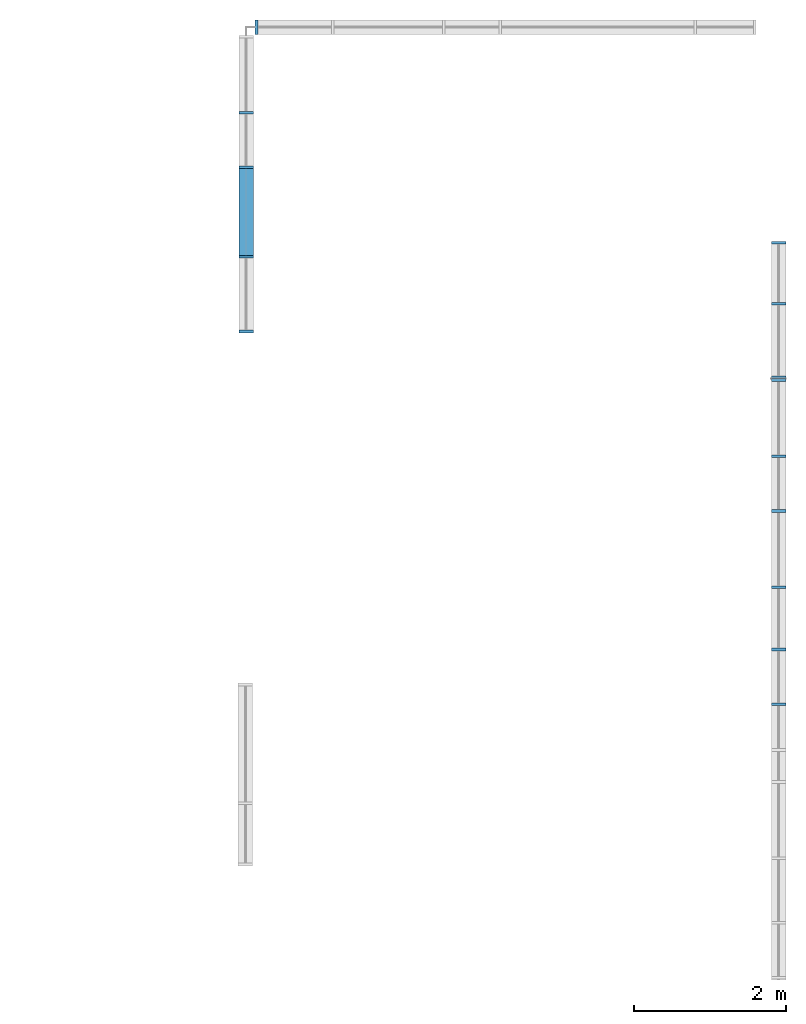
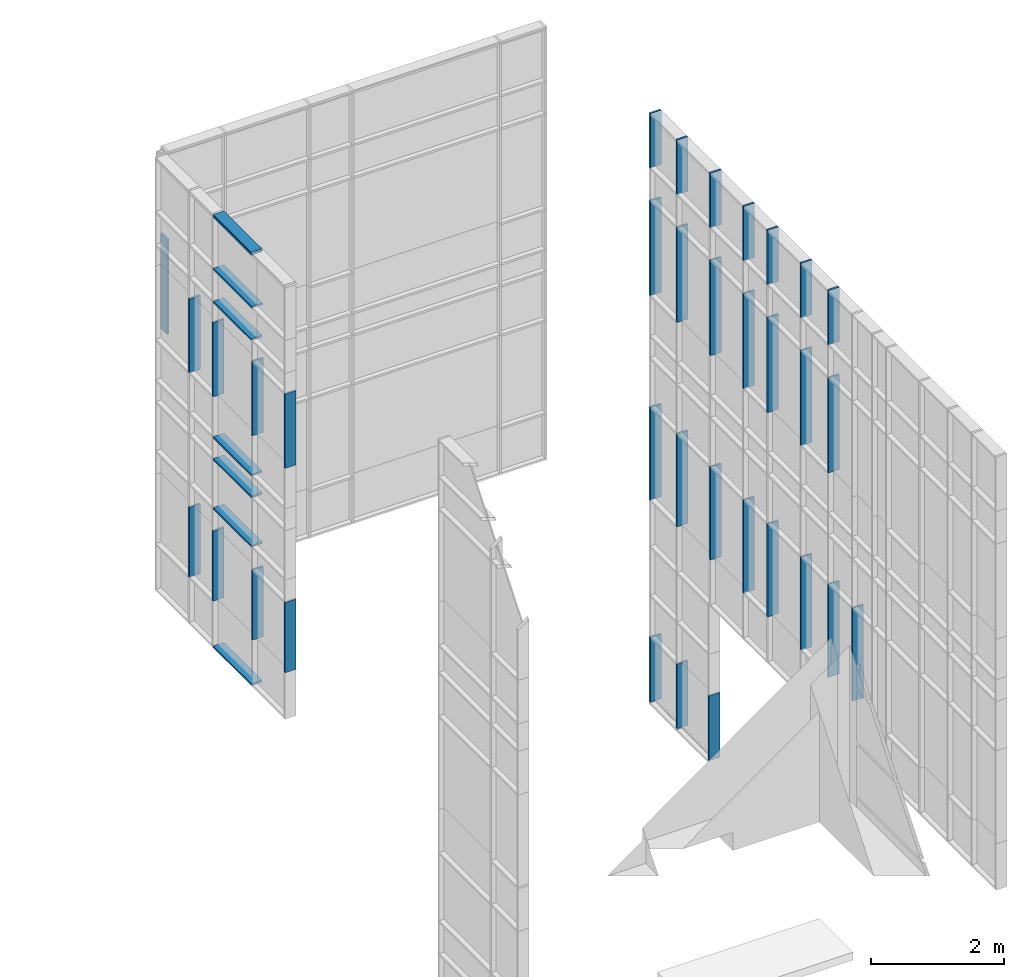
# One storey, part 6 of 73: 42 members, 3 elements without a shape of their own.
"""IFC2X3 building model written with IfcOpenShell, lengths in millimetres."""

from ifc_helpers import new_model, entity, si_unit, converted_unit, derived_unit, direction, frame, frame_2d, origin, origin_2d_with_axis, place, context, subcontext, project, spatial, rectangle, extrude, source, transform, mapped, material, type_object, type_shapes, element, aggregate, save


model = new_model("IFC2X3")

# Units and contexts
model_context = context("Model", 3, precision=0.01, world=origin(), true_north=direction((6.12303176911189e-17, 1.0)))
body_context = subcontext(model_context, "Body", "Model", "MODEL_VIEW")
ifc_project = project(units=[si_unit("LENGTHUNIT", "METRE", prefix="MILLI"), si_unit("AREAUNIT", "SQUARE_METRE"), si_unit("VOLUMEUNIT", "CUBIC_METRE"), converted_unit("PLANEANGLEUNIT", "DEGREE", entity("IfcRatioMeasure", 0.0174532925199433), si_unit("PLANEANGLEUNIT", "RADIAN"), dimensions=[0, 0, 0, 0, 0, 0, 0]), si_unit("MASSUNIT", "GRAM", prefix="KILO"), derived_unit("MASSDENSITYUNIT", [(si_unit("MASSUNIT", "GRAM", prefix="KILO"), 1), (si_unit("LENGTHUNIT", "METRE"), -3)]), si_unit("TIMEUNIT", "SECOND"), si_unit("FREQUENCYUNIT", "HERTZ"), si_unit("THERMODYNAMICTEMPERATUREUNIT", "DEGREE_CELSIUS"), derived_unit("THERMALTRANSMITTANCEUNIT", [(si_unit("MASSUNIT", "GRAM", prefix="KILO"), 1), (si_unit("THERMODYNAMICTEMPERATUREUNIT", "KELVIN"), -1), (si_unit("TIMEUNIT", "SECOND"), -3)]), derived_unit("VOLUMETRICFLOWRATEUNIT", [(si_unit("LENGTHUNIT", "METRE"), 3), (si_unit("TIMEUNIT", "SECOND"), -1)]), si_unit("ELECTRICCURRENTUNIT", "AMPERE"), si_unit("ELECTRICVOLTAGEUNIT", "VOLT"), si_unit("POWERUNIT", "WATT"), si_unit("FORCEUNIT", "NEWTON", prefix="KILO"), si_unit("ILLUMINANCEUNIT", "LUX"), si_unit("LUMINOUSFLUXUNIT", "LUMEN"), si_unit("LUMINOUSINTENSITYUNIT", "CANDELA"), derived_unit("USERDEFINED", [(si_unit("MASSUNIT", "GRAM", prefix="KILO"), -1), (si_unit("LENGTHUNIT", "METRE"), -2), (si_unit("TIMEUNIT", "SECOND"), 3), (si_unit("LUMINOUSFLUXUNIT", "LUMEN"), 1)]), derived_unit("LINEARVELOCITYUNIT", [(si_unit("LENGTHUNIT", "METRE"), 1), (si_unit("TIMEUNIT", "SECOND"), -1)]), si_unit("PRESSUREUNIT", "PASCAL"), derived_unit("USERDEFINED", [(si_unit("LENGTHUNIT", "METRE"), -2), (si_unit("MASSUNIT", "GRAM", prefix="KILO"), 1), (si_unit("TIMEUNIT", "SECOND"), -2)])], contexts=[model_context])

# Site, building, storey
site_placement = place(None, frame((-151.875543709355, 2715.0, 0.0)))
site = spatial("IfcSite", under=ifc_project, at=site_placement, Name="Surface", CompositionType="ELEMENT")
building_placement = place(site_placement, origin())
building = spatial("IfcBuilding", under=site, at=building_placement, CompositionType="ELEMENT")
storey_placement = place(building_placement, frame((0.0, 0.0, 6730.43000000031)))
storey = spatial("IfcBuildingStorey", under=building, at=storey_placement, Name="3 korrus", CompositionType="ELEMENT", Elevation=6730.43000000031)

# Curtain wall, members
curtain_wall_type_1 = type_object("IfcCurtainWallType", Name="Curtain Wall:Klaasfassaad", PredefinedType="NOTDEFINED")
curtain_wall_1_placement = place(storey_placement, frame((0.0, 0.0, -6730.43000000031)))
curtain_wall_1 = element("IfcCurtainWall", 1, at=curtain_wall_1_placement, inside=storey, type_object=curtain_wall_type_1, Name="Curtain Wall:Klaasfassaad", ObjectType="Curtain Wall:Klaasfassaad")
ifc_material = material(Name="Steel/Aluminium")
member_type_1 = type_object("IfcMemberType", Name="35 x 190mm", PredefinedType="MEMBER")
shared_shape_1 = source(origin(), body_context, "Body", "SweptSolid", [
    extrude(rectangle(XDim=190.0, YDim=35.0, at=origin_2d_with_axis()), frame((-17.5, 0.0, -1000.0), z_axis=(0.0, 0.0, 1.0), x_axis=(0.0, -1.0, 0.0)), (0.0, 0.0, 1.0), 1000.0),
])
type_shapes(member_type_1, [shared_shape_1])
member_1_placement = place(storey_placement, frame((38701.6162681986, 23810.5004565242, 4074.47692901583), z_axis=(0.0, 0.0, -1.0), x_axis=(0.0, 1.0, 0.0)))
member_1 = element("IfcMember", 2, at=member_1_placement, type_object=member_type_1, material=ifc_material, Name="Rectangular Mullion:35 x 190mm", ObjectType="35 x 190mm", context=body_context, shape_type="MappedRepresentation", body=[
    mapped(shared_shape_1, transform((0.0, 0.0, 0.0), scale=1.0)),
])
member_type_2 = type_object("IfcMemberType", Name="35 x 190mm", PredefinedType="MEMBER")
shared_shape_2 = source(origin(), body_context, "Body", "SweptSolid", [
    extrude(rectangle(XDim=190.0, YDim=35.0, at=origin_2d_with_axis()), frame((0.0, 0.0, -1000.0), z_axis=(0.0, 0.0, 1.0), x_axis=(0.0, -1.0, 0.0)), (0.0, 0.0, 1.0), 1000.0),
])
type_shapes(member_type_2, [shared_shape_2])
member_2_placement = place(storey_placement, frame((38701.6162681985, 18450.5004565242, 4074.47692901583), z_axis=(0.0, 0.0, -1.0), x_axis=(0.0, 1.0, 0.0)))
member_2 = element("IfcMember", 3, at=member_2_placement, type_object=member_type_2, material=ifc_material, Name="Rectangular Mullion:35 x 190mm", ObjectType="35 x 190mm", context=body_context, shape_type="MappedRepresentation", body=[
    mapped(shared_shape_2, transform((0.0, 0.0, 0.0), scale=1.0)),
])
member_3_placement = place(storey_placement, frame((38701.6162681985, 19270.5004565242, 4074.47692901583), z_axis=(0.0, 0.0, -1.0), x_axis=(0.0, 1.0, 0.0)))
member_3 = element("IfcMember", 4, at=member_3_placement, type_object=member_type_2, material=ifc_material, Name="Rectangular Mullion:35 x 190mm", ObjectType="35 x 190mm", context=body_context, shape_type="MappedRepresentation", body=[
    mapped(shared_shape_2, transform((0.0, 0.0, 0.0), scale=1.0)),
])
member_4_placement = place(storey_placement, frame((38701.6162681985, 20270.5004565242, 4074.47692901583), z_axis=(0.0, 0.0, -1.0), x_axis=(0.0, 1.0, 0.0)))
member_4 = element("IfcMember", 5, at=member_4_placement, type_object=member_type_2, material=ifc_material, Name="Rectangular Mullion:35 x 190mm", ObjectType="35 x 190mm", context=body_context, shape_type="MappedRepresentation", body=[
    mapped(shared_shape_2, transform((0.0, 0.0, 0.0), scale=1.0)),
])
member_5_placement = place(storey_placement, frame((38701.6162681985, 20990.5004565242, 4074.47692901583), z_axis=(0.0, 0.0, -1.0), x_axis=(0.0, 1.0, 0.0)))
member_5 = element("IfcMember", 6, at=member_5_placement, type_object=member_type_2, material=ifc_material, Name="Rectangular Mullion:35 x 190mm", ObjectType="35 x 190mm", context=body_context, shape_type="MappedRepresentation", body=[
    mapped(shared_shape_2, transform((0.0, 0.0, 0.0), scale=1.0)),
])
member_6_placement = place(storey_placement, frame((38701.6162681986, 21990.5004565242, 4074.47692901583), z_axis=(0.0, 0.0, -1.0), x_axis=(0.0, 1.0, 0.0)))
member_6 = element("IfcMember", 7, at=member_6_placement, type_object=member_type_2, material=ifc_material, Name="Rectangular Mullion:35 x 190mm", ObjectType="35 x 190mm", context=body_context, shape_type="MappedRepresentation", body=[
    mapped(shared_shape_2, transform((0.0, 0.0, 0.0), scale=1.0)),
])
member_7_placement = place(storey_placement, frame((38701.6162681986, 22990.5004565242, 4074.47692901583), z_axis=(0.0, 0.0, -1.0), x_axis=(0.0, 1.0, 0.0)))
member_7 = element("IfcMember", 8, at=member_7_placement, type_object=member_type_2, material=ifc_material, Name="Rectangular Mullion:35 x 190mm", ObjectType="35 x 190mm", context=body_context, shape_type="MappedRepresentation", body=[
    mapped(shared_shape_2, transform((0.0, 0.0, 0.0), scale=1.0)),
])
member_type_3 = type_object("IfcMemberType", Name="35 x 190mm", PredefinedType="MEMBER")
shared_shape_3 = source(origin(), body_context, "Body", "SweptSolid", [
    extrude(rectangle(XDim=190.0, YDim=35.0, at=origin_2d_with_axis()), frame((-17.5, 0.0, -1740.0), z_axis=(0.0, 0.0, 1.0), x_axis=(0.0, -1.0, 0.0)), (0.0, 0.0, 1.0), 1740.0),
])
type_shapes(member_type_3, [shared_shape_3])
member_8_placement = place(storey_placement, frame((38701.6162681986, 23810.5004565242, 1734.47692901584), z_axis=(0.0, 0.0, -1.0), x_axis=(0.0, 1.0, 0.0)))
member_8 = element("IfcMember", 9, at=member_8_placement, type_object=member_type_3, material=ifc_material, Name="Rectangular Mullion:35 x 190mm", ObjectType="35 x 190mm", context=body_context, shape_type="MappedRepresentation", body=[
    mapped(shared_shape_3, transform((0.0, 0.0, 0.0), scale=1.0)),
])
member_type_4 = type_object("IfcMemberType", Name="35 x 190mm", PredefinedType="MEMBER")
shared_shape_4 = source(origin(), body_context, "Body", "SweptSolid", [
    extrude(rectangle(XDim=190.0, YDim=35.0, at=origin_2d_with_axis()), frame((0.0, 0.0, -1740.0), z_axis=(0.0, 0.0, 1.0), x_axis=(0.0, -1.0, 0.0)), (0.0, 0.0, 1.0), 1740.0),
])
type_shapes(member_type_4, [shared_shape_4])
member_9_placement = place(storey_placement, frame((38701.6162681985, 18450.5004565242, 1734.47692901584), z_axis=(0.0, 0.0, -1.0), x_axis=(0.0, 1.0, 0.0)))
member_9 = element("IfcMember", 10, at=member_9_placement, type_object=member_type_4, material=ifc_material, Name="Rectangular Mullion:35 x 190mm", ObjectType="35 x 190mm", context=body_context, shape_type="MappedRepresentation", body=[
    mapped(shared_shape_4, transform((0.0, 0.0, 0.0), scale=1.0)),
])
member_10_placement = place(storey_placement, frame((38701.6162681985, 19270.5004565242, 1734.47692901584), z_axis=(0.0, 0.0, -1.0), x_axis=(0.0, 1.0, 0.0)))
member_10 = element("IfcMember", 11, at=member_10_placement, type_object=member_type_4, material=ifc_material, Name="Rectangular Mullion:35 x 190mm", ObjectType="35 x 190mm", context=body_context, shape_type="MappedRepresentation", body=[
    mapped(shared_shape_4, transform((0.0, 0.0, 0.0), scale=1.0)),
])
member_11_placement = place(storey_placement, frame((38701.6162681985, 20270.5004565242, 1734.47692901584), z_axis=(0.0, 0.0, -1.0), x_axis=(0.0, 1.0, 0.0)))
member_11 = element("IfcMember", 12, at=member_11_placement, type_object=member_type_4, material=ifc_material, Name="Rectangular Mullion:35 x 190mm", ObjectType="35 x 190mm", context=body_context, shape_type="MappedRepresentation", body=[
    mapped(shared_shape_4, transform((0.0, 0.0, 0.0), scale=1.0)),
])
member_12_placement = place(storey_placement, frame((38701.6162681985, 20990.5004565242, 1734.47692901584), z_axis=(0.0, 0.0, -1.0), x_axis=(0.0, 1.0, 0.0)))
member_12 = element("IfcMember", 13, at=member_12_placement, type_object=member_type_4, material=ifc_material, Name="Rectangular Mullion:35 x 190mm", ObjectType="35 x 190mm", context=body_context, shape_type="MappedRepresentation", body=[
    mapped(shared_shape_4, transform((0.0, 0.0, 0.0), scale=1.0)),
])
member_13_placement = place(storey_placement, frame((38701.6162681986, 22990.5004565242, 1734.47692901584), z_axis=(0.0, 0.0, -1.0), x_axis=(0.0, 1.0, 0.0)))
member_13 = element("IfcMember", 14, at=member_13_placement, type_object=member_type_4, material=ifc_material, Name="Rectangular Mullion:35 x 190mm", ObjectType="35 x 190mm", context=body_context, shape_type="MappedRepresentation", body=[
    mapped(shared_shape_4, transform((0.0, 0.0, 0.0), scale=1.0)),
])
member_type_5 = type_object("IfcMemberType", Name="35 x 190mm", PredefinedType="MEMBER")
shared_shape_5 = source(origin(), body_context, "Body", "SweptSolid", [
    extrude(rectangle(XDim=190.0, YDim=35.0, at=origin_2d_with_axis()), frame((0.0, 0.0, -1740.0), z_axis=(0.0, 0.0, 1.0), x_axis=(0.0, -1.0, 0.0)), (0.0, 0.0, 1.0), 1740.0),
])
type_shapes(member_type_5, [shared_shape_5])
member_14_placement = place(storey_placement, frame((38701.6162681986, 21990.5004565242, 1734.47692901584), z_axis=(0.0, 0.0, -1.0), x_axis=(0.0, 1.0, 0.0)))
member_14 = element("IfcMember", 15, at=member_14_placement, type_object=member_type_5, material=ifc_material, Name="Rectangular Mullion:35 x 190mm", ObjectType="35 x 190mm", context=body_context, shape_type="MappedRepresentation", body=[
    mapped(shared_shape_5, transform((0.0, 0.0, 0.0), scale=1.0)),
])
member_type_6 = type_object("IfcMemberType", Name="35 x 190mm", PredefinedType="MEMBER")
shared_shape_6 = source(origin(), body_context, "Body", "SweptSolid", [
    extrude(rectangle(XDim=190.0, YDim=35.0, at=origin_2d_with_axis()), frame((-17.5, 0.0, -1700.31945955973), z_axis=(0.0, 0.0, 1.0), x_axis=(0.0, -1.0, 0.0)), (0.0, 0.0, 1.0), 1700.31945955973),
])
type_shapes(member_type_6, [shared_shape_6])
member_15_placement = place(storey_placement, frame((38701.6162681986, 23810.5004565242, -2005.8425305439), z_axis=(0.0, 0.0, -1.0), x_axis=(0.0, 1.0, 0.0)))
member_15 = element("IfcMember", 16, at=member_15_placement, type_object=member_type_6, material=ifc_material, Name="Rectangular Mullion:35 x 190mm", ObjectType="35 x 190mm", context=body_context, shape_type="MappedRepresentation", body=[
    mapped(shared_shape_6, transform((0.0, 0.0, 0.0), scale=1.0)),
])
member_type_7 = type_object("IfcMemberType", Name="35 x 190mm", PredefinedType="MEMBER")
shared_shape_7 = source(origin(), body_context, "Body", "SweptSolid", [
    extrude(rectangle(XDim=190.0, YDim=35.0, at=origin_2d_with_axis()), frame((0.0, 0.0, -1700.31945955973), z_axis=(0.0, 0.0, 1.0), x_axis=(0.0, -1.0, 0.0)), (0.0, 0.0, 1.0), 1700.31945955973),
])
type_shapes(member_type_7, [shared_shape_7])
member_16_placement = place(storey_placement, frame((38701.6162681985, 18450.5004565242, -2005.8425305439), z_axis=(0.0, 0.0, -1.0), x_axis=(0.0, 1.0, 0.0)))
member_16 = element("IfcMember", 17, at=member_16_placement, type_object=member_type_7, material=ifc_material, Name="Rectangular Mullion:35 x 190mm", ObjectType="35 x 190mm", context=body_context, shape_type="MappedRepresentation", body=[
    mapped(shared_shape_7, transform((0.0, 0.0, 0.0), scale=1.0)),
])
member_17_placement = place(storey_placement, frame((38701.6162681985, 19270.5004565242, -2005.8425305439), z_axis=(0.0, 0.0, -1.0), x_axis=(0.0, 1.0, 0.0)))
member_17 = element("IfcMember", 18, at=member_17_placement, type_object=member_type_7, material=ifc_material, Name="Rectangular Mullion:35 x 190mm", ObjectType="35 x 190mm", context=body_context, shape_type="MappedRepresentation", body=[
    mapped(shared_shape_7, transform((0.0, 0.0, 0.0), scale=1.0)),
])
member_18_placement = place(storey_placement, frame((38701.6162681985, 20270.5004565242, -2005.8425305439), z_axis=(0.0, 0.0, -1.0), x_axis=(0.0, 1.0, 0.0)))
member_18 = element("IfcMember", 19, at=member_18_placement, type_object=member_type_7, material=ifc_material, Name="Rectangular Mullion:35 x 190mm", ObjectType="35 x 190mm", context=body_context, shape_type="MappedRepresentation", body=[
    mapped(shared_shape_7, transform((0.0, 0.0, 0.0), scale=1.0)),
])
member_19_placement = place(storey_placement, frame((38701.6162681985, 20990.5004565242, -2005.8425305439), z_axis=(0.0, 0.0, -1.0), x_axis=(0.0, 1.0, 0.0)))
member_19 = element("IfcMember", 20, at=member_19_placement, type_object=member_type_7, material=ifc_material, Name="Rectangular Mullion:35 x 190mm", ObjectType="35 x 190mm", context=body_context, shape_type="MappedRepresentation", body=[
    mapped(shared_shape_7, transform((0.0, 0.0, 0.0), scale=1.0)),
])
member_20_placement = place(storey_placement, frame((38701.6162681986, 22990.5004565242, -2005.8425305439), z_axis=(0.0, 0.0, -1.0), x_axis=(0.0, 1.0, 0.0)))
member_20 = element("IfcMember", 21, at=member_20_placement, type_object=member_type_7, material=ifc_material, Name="Rectangular Mullion:35 x 190mm", ObjectType="35 x 190mm", context=body_context, shape_type="MappedRepresentation", body=[
    mapped(shared_shape_7, transform((0.0, 0.0, 0.0), scale=1.0)),
])
member_type_8 = type_object("IfcMemberType", Name="35 x 190mm", PredefinedType="MEMBER")
shared_shape_8 = source(origin(), body_context, "Body", "SweptSolid", [
    extrude(rectangle(XDim=190.0, YDim=35.0, at=origin_2d_with_axis()), frame((0.0, 0.0, -1700.31945955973), z_axis=(0.0, 0.0, 1.0), x_axis=(0.0, -1.0, 0.0)), (0.0, 0.0, 1.0), 1700.31945955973),
])
type_shapes(member_type_8, [shared_shape_8])
member_21_placement = place(storey_placement, frame((38701.6162681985, 17730.5004565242, -2005.8425305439), z_axis=(0.0, 0.0, -1.0), x_axis=(0.0, 1.0, 0.0)))
member_21 = element("IfcMember", 22, at=member_21_placement, type_object=member_type_8, material=ifc_material, Name="Rectangular Mullion:35 x 190mm", ObjectType="35 x 190mm", context=body_context, shape_type="MappedRepresentation", body=[
    mapped(shared_shape_8, transform((0.0, 0.0, 0.0), scale=1.0)),
])
member_22_placement = place(storey_placement, frame((38701.6162681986, 21990.5004565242, -2005.8425305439), z_axis=(0.0, 0.0, -1.0), x_axis=(0.0, 1.0, 0.0)))
member_22 = element("IfcMember", 23, at=member_22_placement, type_object=member_type_8, material=ifc_material, Name="Rectangular Mullion:35 x 190mm", ObjectType="35 x 190mm", context=body_context, shape_type="MappedRepresentation", body=[
    mapped(shared_shape_8, transform((0.0, 0.0, 0.0), scale=1.0)),
])
member_type_9 = type_object("IfcMemberType", Name="35 x 190mm", PredefinedType="MEMBER")
shared_shape_9 = source(origin(), body_context, "Body", "SweptSolid", [
    extrude(rectangle(XDim=190.0, YDim=35.0, at=origin_2d_with_axis()), frame((-17.5, 0.0, -1184.42772498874), z_axis=(0.0, 0.0, 1.0), x_axis=(0.0, -1.0, 0.0)), (0.0, 0.0, 1.0), 1184.42772498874),
])
type_shapes(member_type_9, [shared_shape_9])
member_23_placement = place(storey_placement, frame((38701.6162681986, 22010.5004299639, -4516.00226032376), z_axis=(0.0, 0.0, 1.0), x_axis=(0.0, -1.0, 0.0)))
member_23 = element("IfcMember", 24, at=member_23_placement, type_object=member_type_9, material=ifc_material, Name="Rectangular Mullion:35 x 190mm", ObjectType="35 x 190mm", context=body_context, shape_type="MappedRepresentation", body=[
    mapped(shared_shape_9, transform((0.0, 0.0, 0.0), scale=1.0)),
])
member_type_10 = type_object("IfcMemberType", Name="35 x 190mm", PredefinedType="MEMBER")
shared_shape_10 = source(origin(), body_context, "Body", "SweptSolid", [
    extrude(rectangle(XDim=190.0, YDim=35.0, at=origin_2d_with_axis()), frame((-17.5, 0.0, -1184.42772498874), z_axis=(0.0, 0.0, 1.0), x_axis=(0.0, -1.0, 0.0)), (0.0, 0.0, 1.0), 1184.42772498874),
])
type_shapes(member_type_10, [shared_shape_10])
member_24_placement = place(storey_placement, frame((38701.6162681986, 23810.5004565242, -5700.4299853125), z_axis=(0.0, 0.0, -1.0), x_axis=(0.0, 1.0, 0.0)))
member_24 = element("IfcMember", 25, at=member_24_placement, type_object=member_type_10, material=ifc_material, Name="Rectangular Mullion:35 x 190mm", ObjectType="35 x 190mm", context=body_context, shape_type="MappedRepresentation", body=[
    mapped(shared_shape_10, transform((0.0, 0.0, 0.0), scale=1.0)),
])
member_type_11 = type_object("IfcMemberType", Name="35 x 190mm", PredefinedType="MEMBER")
shared_shape_11 = source(origin(), body_context, "Body", "SweptSolid", [
    extrude(rectangle(XDim=190.0, YDim=35.0, at=origin_2d_with_axis()), frame((0.0, 0.0, -1184.42772498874), z_axis=(0.0, 0.0, 1.0), x_axis=(0.0, -1.0, 0.0)), (0.0, 0.0, 1.0), 1184.42772498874),
])
type_shapes(member_type_11, [shared_shape_11])
member_25_placement = place(storey_placement, frame((38701.6162681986, 22990.5004565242, -5700.4299853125), z_axis=(0.0, 0.0, -1.0), x_axis=(0.0, 1.0, 0.0)))
member_25 = element("IfcMember", 26, at=member_25_placement, type_object=member_type_11, material=ifc_material, Name="Rectangular Mullion:35 x 190mm", ObjectType="35 x 190mm", context=body_context, shape_type="MappedRepresentation", body=[
    mapped(shared_shape_11, transform((0.0, 0.0, 0.0), scale=1.0)),
])
aggregate(curtain_wall_1, [member_1, member_2, member_3, member_4, member_5, member_6, member_7, member_8, member_9, member_10, member_11, member_12, member_14, member_13, member_15, member_21, member_16, member_17, member_18, member_19, member_22, member_20, member_23, member_24, member_25])

# Curtain wall, member
curtain_wall_type_2 = type_object("IfcCurtainWallType", Name="Curtain Wall:Klaasfassaad2", PredefinedType="NOTDEFINED")
curtain_wall_2_placement = place(storey_placement, frame((0.0, 0.0, -6730.43000000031)))
curtain_wall_2 = element("IfcCurtainWall", 27, at=curtain_wall_2_placement, inside=storey, type_object=curtain_wall_type_2, Name="Curtain Wall:Klaasfassaad2", ObjectType="Curtain Wall:Klaasfassaad2")
member_type_12 = type_object("IfcMemberType", Name="35 x 190mm", PredefinedType="MEMBER")
shared_shape_12 = source(origin(), body_context, "Body", "SweptSolid", [
    extrude(rectangle(XDim=190.0, YDim=35.0, at=origin_2d_with_axis()), frame((0.0, 0.0, -1740.0), z_axis=(0.0, 0.0, 1.0), x_axis=(0.0, -1.0, 0.0)), (0.0, 0.0, 1.0), 1740.0),
])
type_shapes(member_type_12, [shared_shape_12])
member_26_placement = place(storey_placement, frame((31844.6162682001, 26624.0, 1734.47692901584), z_axis=(0.0, 0.0, -1.0), x_axis=(-1.0, 0.0, 0.0)))
member_26 = element("IfcMember", 28, at=member_26_placement, type_object=member_type_12, material=ifc_material, Name="Rectangular Mullion:35 x 190mm", ObjectType="35 x 190mm", context=body_context, shape_type="MappedRepresentation", body=[
    mapped(shared_shape_12, transform((0.0, 0.0, 0.0), scale=1.0)),
])
aggregate(curtain_wall_2, [member_26])

# Curtain wall, members
curtain_wall_3_placement = place(storey_placement, frame((0.0, 0.0, -6730.43000000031)))
curtain_wall_3 = element("IfcCurtainWall", 29, at=curtain_wall_3_placement, inside=storey, type_object=curtain_wall_type_2, Name="Curtain Wall:Klaasfassaad2", ObjectType="Curtain Wall:Klaasfassaad2")
member_type_13 = type_object("IfcMemberType", Name="35 x 190mm", PredefinedType="MEMBER")
shared_shape_13 = source(origin(), body_context, "Body", "SweptSolid", [
    extrude(rectangle(XDim=190.0, YDim=35.0, at=origin_2d_with_axis()), frame((0.0, 0.0, -1284.84027022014), z_axis=(0.0, 0.0, 1.0), x_axis=(0.0, -1.0, 0.0)), (0.0, 0.0, 1.0), 1284.84027022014),
])
type_shapes(member_type_13, [shared_shape_13])
member_27_placement = place(storey_placement, frame((31707.6162682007, 25501.1813631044, -2005.84253054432), z_axis=(0.0, 0.0, -1.0), x_axis=(0.0, 1.0, 0.0)))
member_27 = element("IfcMember", 30, at=member_27_placement, type_object=member_type_13, material=ifc_material, Name="Rectangular Mullion:35 x 190mm", ObjectType="35 x 190mm", context=body_context, shape_type="MappedRepresentation", body=[
    mapped(shared_shape_13, transform((0.0, 0.0, 0.0), scale=1.0)),
])
member_type_14 = type_object("IfcMemberType", Name="35 x 190mm", PredefinedType="MEMBER")
shared_shape_14 = source(origin(), body_context, "Body", "SweptSolid", [
    extrude(rectangle(XDim=190.0, YDim=35.0, at=origin_2d_with_axis()), frame((-17.5, 0.0, -1141.18136310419), z_axis=(0.0, 0.0, 1.0), x_axis=(0.0, -1.0, 0.0)), (0.0, 0.0, 1.0), 1141.1813631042),
])
type_shapes(member_type_14, [shared_shape_14])
member_28_placement = place(storey_placement, frame((31707.6162682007, 24768.6813631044, 5074.47692901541), z_axis=(0.0, 1.0, 0.0), x_axis=(0.0, 0.0, 1.0)))
member_28 = element("IfcMember", 31, at=member_28_placement, type_object=member_type_14, material=ifc_material, Name="Rectangular Mullion:35 x 190mm", ObjectType="35 x 190mm", context=body_context, shape_type="MappedRepresentation", body=[
    mapped(shared_shape_14, transform((0.0, 0.0, 0.0), scale=1.0)),
])
member_type_15 = type_object("IfcMemberType", Name="35 x 190mm", PredefinedType="MEMBER")
shared_shape_15 = source(origin(), body_context, "Body", "SweptSolid", [
    extrude(rectangle(XDim=190.0, YDim=35.0, at=frame_2d((2.1316282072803e-14, 0.0), x_axis=(1.0, 0.0))), frame((-17.5, 0.0, -1141.1813631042), z_axis=(0.0, 0.0, 1.0), x_axis=(0.0, -1.0, 0.0)), (0.0, 0.0, 1.0), 1141.1813631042),
])
type_shapes(member_type_15, [shared_shape_15])
member_29_placement = place(storey_placement, frame((31707.6162682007, 23627.5000000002, -2856.00226032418), z_axis=(0.0, -1.0, 0.0), x_axis=(0.0, 0.0, -1.0)))
member_29 = element("IfcMember", 32, at=member_29_placement, type_object=member_type_15, material=ifc_material, Name="Rectangular Mullion:35 x 190mm", ObjectType="35 x 190mm", context=body_context, shape_type="MappedRepresentation", body=[
    mapped(shared_shape_15, transform((0.0, 0.0, 0.0), scale=1.0)),
])
member_type_16 = type_object("IfcMemberType", Name="35 x 190mm", PredefinedType="MEMBER")
shared_shape_16 = source(origin(), body_context, "Body", "SweptSolid", [
    extrude(rectangle(XDim=190.0, YDim=35.0, at=origin_2d_with_axis()), frame((-17.5, 0.0, -1284.84027022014), z_axis=(0.0, 0.0, 1.0), x_axis=(0.0, -1.0, 0.0)), (0.0, 0.0, 1.0), 1284.84027022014),
])
type_shapes(member_type_16, [shared_shape_16])
member_30_placement = place(storey_placement, frame((31707.6162682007, 22610.0, -721.002260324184), z_axis=(0.0, 0.0, 1.0), x_axis=(0.0, -1.0, 0.0)))
member_30 = element("IfcMember", 33, at=member_30_placement, type_object=member_type_16, material=ifc_material, Name="Rectangular Mullion:35 x 190mm", ObjectType="35 x 190mm", context=body_context, shape_type="MappedRepresentation", body=[
    mapped(shared_shape_16, transform((0.0, 0.0, 0.0), scale=1.0)),
])
member_type_17 = type_object("IfcMemberType", Name="35 x 190mm", PredefinedType="MEMBER")
shared_shape_17 = source(origin(), body_context, "Body", "SweptSolid", [
    extrude(rectangle(XDim=190.0, YDim=35.0, at=origin_2d_with_axis()), frame((-17.5, 0.0, -1360.0), z_axis=(0.0, 0.0, 1.0), x_axis=(0.0, -1.0, 0.0)), (0.0, 0.0, 1.0), 1360.0),
])
type_shapes(member_type_17, [shared_shape_17])
member_31_placement = place(storey_placement, frame((31707.6162682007, 22610.0, 3094.47692901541), z_axis=(0.0, 0.0, 1.0), x_axis=(0.0, -1.0, 0.0)))
member_31 = element("IfcMember", 34, at=member_31_placement, type_object=member_type_17, material=ifc_material, Name="Rectangular Mullion:35 x 190mm", ObjectType="35 x 190mm", context=body_context, shape_type="MappedRepresentation", body=[
    mapped(shared_shape_17, transform((0.0, 0.0, 0.0), scale=1.0)),
])
member_type_18 = type_object("IfcMemberType", Name="35 x 190mm", PredefinedType="MEMBER")
shared_shape_18 = source(origin(), body_context, "Body", "SweptSolid", [
    extrude(rectangle(XDim=190.0, YDim=35.0, at=origin_2d_with_axis()), frame((0.0, 0.0, -1158.6813631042), z_axis=(0.0, 0.0, 1.0), x_axis=(0.0, -1.0, 0.0)), (0.0, 0.0, 1.0), 1158.6813631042),
])
type_shapes(member_type_18, [shared_shape_18])
member_32_placement = place(storey_placement, frame((31707.6162682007, 24768.6813631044, 4074.47692901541), z_axis=(0.0, 1.0, 0.0), x_axis=(0.0, 0.0, 1.0)))
member_32 = element("IfcMember", 35, at=member_32_placement, type_object=member_type_18, material=ifc_material, Name="Rectangular Mullion:35 x 190mm", ObjectType="35 x 190mm", context=body_context, shape_type="MappedRepresentation", body=[
    mapped(shared_shape_18, transform((0.0, 0.0, 0.0), scale=1.0)),
])
member_type_19 = type_object("IfcMemberType", Name="35 x 190mm", PredefinedType="MEMBER")
shared_shape_19 = source(origin(), body_context, "Body", "SweptSolid", [
    extrude(rectangle(XDim=190.0, YDim=35.0, at=origin_2d_with_axis()), frame((0.0, 0.0, -1141.18136310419), z_axis=(0.0, 0.0, 1.0), x_axis=(0.0, -1.0, 0.0)), (0.0, 0.0, 1.0), 1141.18136310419),
])
type_shapes(member_type_19, [shared_shape_19])
member_33_placement = place(storey_placement, frame((31707.6162682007, 24768.6813631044, 3474.47692901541), z_axis=(0.0, 1.0, 0.0), x_axis=(0.0, 0.0, 1.0)))
member_33 = element("IfcMember", 36, at=member_33_placement, type_object=member_type_19, material=ifc_material, Name="Rectangular Mullion:35 x 190mm", ObjectType="35 x 190mm", context=body_context, shape_type="MappedRepresentation", body=[
    mapped(shared_shape_19, transform((0.0, 0.0, 0.0), scale=1.0)),
])
member_type_20 = type_object("IfcMemberType", Name="35 x 190mm", PredefinedType="MEMBER")
shared_shape_20 = source(origin(), body_context, "Body", "SweptSolid", [
    extrude(rectangle(XDim=190.0, YDim=35.0, at=origin_2d_with_axis()), frame((0.0, 0.0, -1141.18136310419), z_axis=(0.0, 0.0, 1.0), x_axis=(0.0, -1.0, 0.0)), (0.0, 0.0, 1.0), 1141.18136310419),
])
type_shapes(member_type_20, [shared_shape_20])
member_34_placement = place(storey_placement, frame((31707.6162682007, 24768.6813631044, 994.47692901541), z_axis=(0.0, 1.0, 0.0), x_axis=(0.0, 0.0, 1.0)))
member_34 = element("IfcMember", 37, at=member_34_placement, type_object=member_type_20, material=ifc_material, Name="Rectangular Mullion:35 x 190mm", ObjectType="35 x 190mm", context=body_context, shape_type="MappedRepresentation", body=[
    mapped(shared_shape_20, transform((0.0, 0.0, 0.0), scale=1.0)),
])
member_type_21 = type_object("IfcMemberType", Name="35 x 190mm", PredefinedType="MEMBER")
shared_shape_21 = source(origin(), body_context, "Body", "SweptSolid", [
    extrude(rectangle(XDim=190.0, YDim=35.0, at=origin_2d_with_axis()), frame((0.0, 0.0, -1141.18136310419), z_axis=(0.0, 0.0, 1.0), x_axis=(0.0, -1.0, 0.0)), (0.0, 0.0, 1.0), 1141.18136310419),
])
type_shapes(member_type_21, [shared_shape_21])
member_35_placement = place(storey_placement, frame((31707.6162682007, 24768.6813631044, 594.476929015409), z_axis=(0.0, 1.0, 0.0), x_axis=(0.0, 0.0, 1.0)))
member_35 = element("IfcMember", 38, at=member_35_placement, type_object=member_type_21, material=ifc_material, Name="Rectangular Mullion:35 x 190mm", ObjectType="35 x 190mm", context=body_context, shape_type="MappedRepresentation", body=[
    mapped(shared_shape_21, transform((0.0, 0.0, 0.0), scale=1.0)),
])
member_type_22 = type_object("IfcMemberType", Name="35 x 190mm", PredefinedType="MEMBER")
shared_shape_22 = source(origin(), body_context, "Body", "SweptSolid", [
    extrude(rectangle(XDim=190.0, YDim=35.0, at=origin_2d_with_axis()), frame((0.0, 0.0, -1141.18136310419), z_axis=(0.0, 0.0, 1.0), x_axis=(0.0, -1.0, 0.0)), (0.0, 0.0, 1.0), 1141.18136310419),
])
type_shapes(member_type_22, [shared_shape_22])
member_36_placement = place(storey_placement, frame((31707.6162682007, 24768.6813631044, -305.523070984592), z_axis=(0.0, 1.0, 0.0), x_axis=(0.0, 0.0, 1.0)))
member_36 = element("IfcMember", 39, at=member_36_placement, type_object=member_type_22, material=ifc_material, Name="Rectangular Mullion:35 x 190mm", ObjectType="35 x 190mm", context=body_context, shape_type="MappedRepresentation", body=[
    mapped(shared_shape_22, transform((0.0, 0.0, 0.0), scale=1.0)),
])
member_type_23 = type_object("IfcMemberType", Name="35 x 190mm", PredefinedType="MEMBER")
shared_shape_23 = source(origin(), body_context, "Body", "SweptSolid", [
    extrude(rectangle(XDim=190.0, YDim=35.0, at=origin_2d_with_axis()), frame((0.0, 0.0, -1141.18136310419), z_axis=(0.0, 0.0, 1.0), x_axis=(0.0, -1.0, 0.0)), (0.0, 0.0, 1.0), 1141.18136310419),
])
type_shapes(member_type_23, [shared_shape_23])
member_37_placement = place(storey_placement, frame((31707.6162682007, 24768.6813631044, 5034.47692901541), z_axis=(0.0, 1.0, 0.0), x_axis=(0.0, 0.0, 1.0)))
member_37 = element("IfcMember", 40, at=member_37_placement, type_object=member_type_23, material=ifc_material, Name="Rectangular Mullion:35 x 190mm", ObjectType="35 x 190mm", context=body_context, shape_type="MappedRepresentation", body=[
    mapped(shared_shape_23, transform((0.0, 0.0, 0.0), scale=1.0)),
])
member_type_24 = type_object("IfcMemberType", Name="35 x 190mm", PredefinedType="MEMBER")
shared_shape_24 = source(origin(), body_context, "Body", "SweptSolid", [
    extrude(rectangle(XDim=190.0, YDim=35.0, at=origin_2d_with_axis()), frame((0.0, 0.0, -1360.0), z_axis=(0.0, 0.0, 1.0), x_axis=(0.0, -1.0, 0.0)), (0.0, 0.0, 1.0), 1360.0),
])
type_shapes(member_type_24, [shared_shape_24])
member_38_placement = place(storey_placement, frame((31707.6162682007, 25501.1813631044, 1734.47692901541), z_axis=(0.0, 0.0, -1.0), x_axis=(0.0, 1.0, 0.0)))
member_38 = element("IfcMember", 41, at=member_38_placement, type_object=member_type_24, material=ifc_material, Name="Rectangular Mullion:35 x 190mm", ObjectType="35 x 190mm", context=body_context, shape_type="MappedRepresentation", body=[
    mapped(shared_shape_24, transform((0.0, 0.0, 0.0), scale=1.0)),
])
member_39_placement = place(storey_placement, frame((31707.6162682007, 24786.1813631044, 1734.47692901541), z_axis=(0.0, 0.0, -1.0), x_axis=(0.0, 1.0, 0.0)))
member_39 = element("IfcMember", 42, at=member_39_placement, type_object=member_type_24, material=ifc_material, Name="Rectangular Mullion:35 x 190mm", ObjectType="35 x 190mm", context=body_context, shape_type="MappedRepresentation", body=[
    mapped(shared_shape_24, transform((0.0, 0.0, 0.0), scale=1.0)),
])
member_type_25 = type_object("IfcMemberType", Name="35 x 190mm", PredefinedType="MEMBER")
shared_shape_25 = source(origin(), body_context, "Body", "SweptSolid", [
    extrude(rectangle(XDim=190.0, YDim=35.0, at=origin_2d_with_axis()), frame((0.0, 0.0, -1284.84027022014), z_axis=(0.0, 0.0, 1.0), x_axis=(0.0, -1.0, 0.0)), (0.0, 0.0, 1.0), 1284.84027022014),
])
type_shapes(member_type_25, [shared_shape_25])
member_40_placement = place(storey_placement, frame((31707.6162682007, 24786.1813631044, -2005.84253054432), z_axis=(0.0, 0.0, -1.0), x_axis=(0.0, 1.0, 0.0)))
member_40 = element("IfcMember", 43, at=member_40_placement, type_object=member_type_25, material=ifc_material, Name="Rectangular Mullion:35 x 190mm", ObjectType="35 x 190mm", context=body_context, shape_type="MappedRepresentation", body=[
    mapped(shared_shape_25, transform((0.0, 0.0, 0.0), scale=1.0)),
])
member_type_26 = type_object("IfcMemberType", Name="35 x 190mm", PredefinedType="MEMBER")
shared_shape_26 = source(origin(), body_context, "Body", "SweptSolid", [
    extrude(rectangle(XDim=190.0, YDim=35.0, at=origin_2d_with_axis()), frame((0.0, 0.0, -1360.0), z_axis=(0.0, 0.0, 1.0), x_axis=(0.0, -1.0, 0.0)), (0.0, 0.0, 1.0), 1360.0),
])
type_shapes(member_type_26, [shared_shape_26])
member_41_placement = place(storey_placement, frame((31707.6162682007, 23610.0, 1734.47692901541), z_axis=(0.0, 0.0, -1.0), x_axis=(0.0, 1.0, 0.0)))
member_41 = element("IfcMember", 44, at=member_41_placement, type_object=member_type_26, material=ifc_material, Name="Rectangular Mullion:35 x 190mm", ObjectType="35 x 190mm", context=body_context, shape_type="MappedRepresentation", body=[
    mapped(shared_shape_26, transform((0.0, 0.0, 0.0), scale=1.0)),
])
member_type_27 = type_object("IfcMemberType", Name="35 x 190mm", PredefinedType="MEMBER")
shared_shape_27 = source(origin(), body_context, "Body", "SweptSolid", [
    extrude(rectangle(XDim=190.0, YDim=35.0, at=origin_2d_with_axis()), frame((0.0, 0.0, -1284.84027022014), z_axis=(0.0, 0.0, 1.0), x_axis=(0.0, -1.0, 0.0)), (0.0, 0.0, 1.0), 1284.84027022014),
])
type_shapes(member_type_27, [shared_shape_27])
member_42_placement = place(storey_placement, frame((31707.6162682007, 23610.0, -2005.84253054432), z_axis=(0.0, 0.0, -1.0), x_axis=(0.0, 1.0, 0.0)))
member_42 = element("IfcMember", 45, at=member_42_placement, type_object=member_type_27, material=ifc_material, Name="Rectangular Mullion:35 x 190mm", ObjectType="35 x 190mm", context=body_context, shape_type="MappedRepresentation", body=[
    mapped(shared_shape_27, transform((0.0, 0.0, 0.0), scale=1.0)),
])
aggregate(curtain_wall_3, [member_27, member_28, member_29, member_30, member_31, member_32, member_33, member_34, member_35, member_36, member_37, member_38, member_39, member_40, member_41, member_42])

save(model, "model.ifc")
